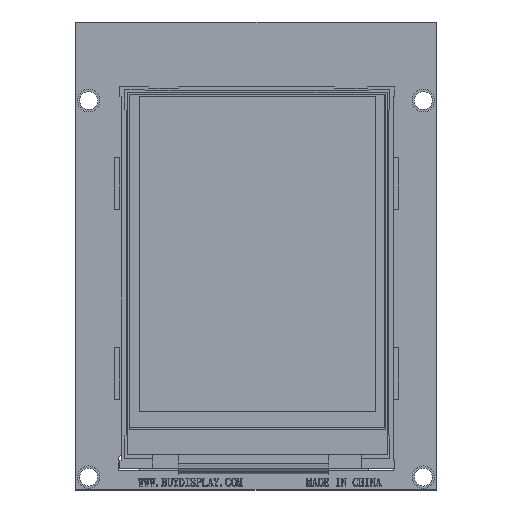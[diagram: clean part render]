
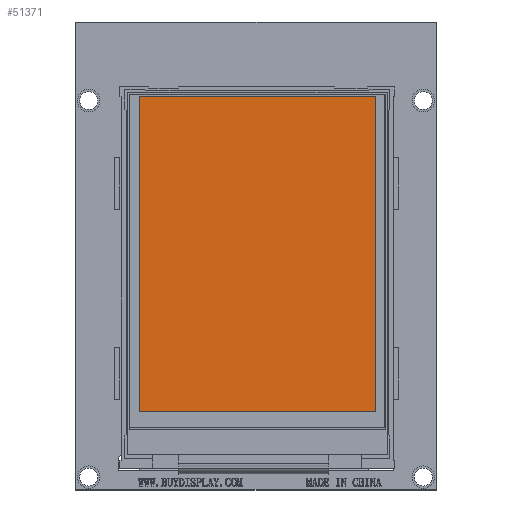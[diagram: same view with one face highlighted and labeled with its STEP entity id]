
A CAD part, top view. The second image highlights one B-rep face of the part: STEP entity #51371.
In plain terms, the highlighted planar face has unit normal (0, 0, 1).
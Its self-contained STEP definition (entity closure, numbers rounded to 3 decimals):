
#4735 = EDGE_CURVE ( 'NONE', #75203, #106329, #14734, .T. ) ;
#6896 = EDGE_LOOP ( 'NONE', ( #49952, #101867, #47916, #92704 ) ) ;
#9887 = CARTESIAN_POINT ( 'NONE',  ( 39.72, 57.76, 2.6 ) ) ;
#10346 = VERTEX_POINT ( 'NONE', #9887 ) ;
#12335 = CARTESIAN_POINT ( 'NONE',  ( 39.72, 0., 2.6 ) ) ;
#14218 = CARTESIAN_POINT ( 'NONE',  ( 3., 57.76, 2.6 ) ) ;
#14734 = LINE ( 'NONE', #80738, #101973 ) ;
#18061 = DIRECTION ( 'NONE',  ( -1., 0., 0. ) ) ;
#20390 = DIRECTION ( 'NONE',  ( 0., -1., 0. ) ) ;
#24010 = VECTOR ( 'NONE', #54653, 1000. ) ;
#24392 = DIRECTION ( 'NONE',  ( 0., 1., 0. ) ) ;
#31903 = DIRECTION ( 'NONE',  ( 0., 0., 1. ) ) ;
#35886 = LINE ( 'NONE', #67820, #92972 ) ;
#39449 = CARTESIAN_POINT ( 'NONE',  ( 0., 57.76, 2.6 ) ) ;
#43565 = EDGE_CURVE ( 'NONE', #54625, #75203, #35886, .T. ) ;
#44283 = CARTESIAN_POINT ( 'NONE',  ( 39.72, 8.8, 2.6 ) ) ;
#45641 = FACE_OUTER_BOUND ( 'NONE', #6896, .T. ) ;
#46693 = EDGE_CURVE ( 'NONE', #106329, #10346, #89727, .T. ) ;
#47916 = ORIENTED_EDGE ( 'NONE', *, *, #74988, .F. ) ;
#49952 = ORIENTED_EDGE ( 'NONE', *, *, #4735, .F. ) ;
#51371 = ADVANCED_FACE ( 'NONE', ( #45641 ), #74077, .T. ) ;
#51640 = VECTOR ( 'NONE', #20390, 1000. ) ;
#54625 = VERTEX_POINT ( 'NONE', #44283 ) ;
#54653 = DIRECTION ( 'NONE',  ( 1., 0., 0. ) ) ;
#67820 = CARTESIAN_POINT ( 'NONE',  ( 0., 8.8, 2.6 ) ) ;
#74077 = PLANE ( 'NONE',  #75474 ) ;
#74988 = EDGE_CURVE ( 'NONE', #10346, #54625, #86421, .T. ) ;
#75203 = VERTEX_POINT ( 'NONE', #82529 ) ;
#75474 = AXIS2_PLACEMENT_3D ( 'NONE', #89224, #31903, #97864 ) ;
#80738 = CARTESIAN_POINT ( 'NONE',  ( 3., 0., 2.6 ) ) ;
#82529 = CARTESIAN_POINT ( 'NONE',  ( 3., 8.8, 2.6 ) ) ;
#86421 = LINE ( 'NONE', #12335, #51640 ) ;
#89224 = CARTESIAN_POINT ( 'NONE',  ( 0., 0., 2.6 ) ) ;
#89727 = LINE ( 'NONE', #39449, #24010 ) ;
#92704 = ORIENTED_EDGE ( 'NONE', *, *, #46693, .F. ) ;
#92972 = VECTOR ( 'NONE', #18061, 1000. ) ;
#97864 = DIRECTION ( 'NONE',  ( 1., 0., 0. ) ) ;
#101867 = ORIENTED_EDGE ( 'NONE', *, *, #43565, .F. ) ;
#101973 = VECTOR ( 'NONE', #24392, 1000. ) ;
#106329 = VERTEX_POINT ( 'NONE', #14218 ) ;
